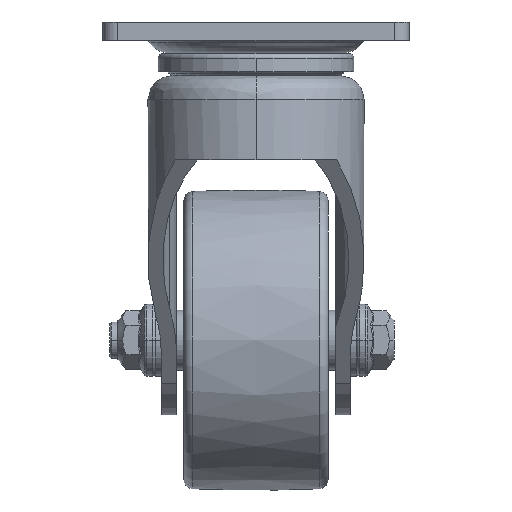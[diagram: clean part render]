
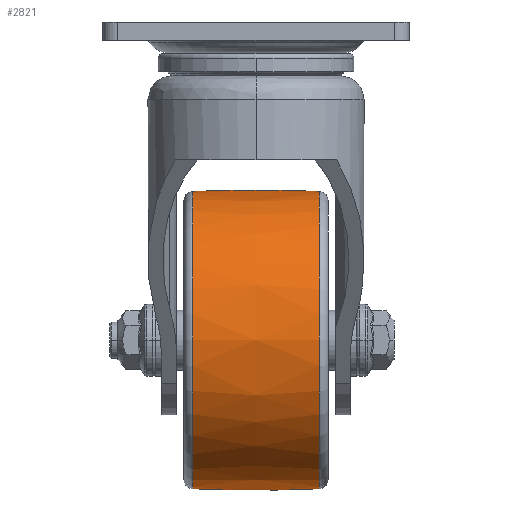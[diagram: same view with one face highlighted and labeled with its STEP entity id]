
A CAD part, left-side view. The second image highlights one B-rep face of the part: STEP entity #2821.
In plain terms, the highlighted free-form (B-spline) face has degree [2, 2] with [3, 9] control points.
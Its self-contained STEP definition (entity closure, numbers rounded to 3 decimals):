
#2748=CARTESIAN_POINT('',(101.278,-34.048,1.127));
#2749=CARTESIAN_POINT('',(101.278,-34.942,-20.));
#2750=CARTESIAN_POINT('',(101.278,-34.048,-41.127));
#2751=CARTESIAN_POINT('',(150.831,-34.048,1.127));
#2752=CARTESIAN_POINT('',(151.725,-34.942,-20.));
#2753=CARTESIAN_POINT('',(150.831,-34.048,-41.127));
#2754=CARTESIAN_POINT('',(150.831,15.505,1.127));
#2755=CARTESIAN_POINT('',(151.725,15.505,-20.));
#2756=CARTESIAN_POINT('',(150.831,15.505,-41.127));
#2757=CARTESIAN_POINT('',(150.831,65.059,1.127));
#2758=CARTESIAN_POINT('',(151.725,65.952,-20.));
#2759=CARTESIAN_POINT('',(150.831,65.059,-41.127));
#2760=CARTESIAN_POINT('',(101.278,65.059,1.127));
#2761=CARTESIAN_POINT('',(101.278,65.952,-20.));
#2762=CARTESIAN_POINT('',(101.278,65.059,-41.127));
#2763=CARTESIAN_POINT('',(51.724,65.059,1.127));
#2764=CARTESIAN_POINT('',(50.831,65.952,-20.));
#2765=CARTESIAN_POINT('',(51.724,65.059,-41.127));
#2766=CARTESIAN_POINT('',(51.724,15.505,1.127));
#2767=CARTESIAN_POINT('',(50.831,15.505,-20.));
#2768=CARTESIAN_POINT('',(51.724,15.505,-41.127));
#2769=CARTESIAN_POINT('',(51.724,-34.048,1.127));
#2770=CARTESIAN_POINT('',(50.831,-34.942,-20.));
#2771=CARTESIAN_POINT('',(51.724,-34.048,-41.127));
#2772=CARTESIAN_POINT('',(101.278,-34.048,1.127));
#2773=CARTESIAN_POINT('',(101.278,-34.942,-20.));
#2774=CARTESIAN_POINT('',(101.278,-34.048,-41.127));
#2782=(BOUNDED_SURFACE()B_SPLINE_SURFACE(2,2,((#2748,#2751,#2754,#2757,#2760,#2763,#2766,#2769,#2772),(#2749,#2752,#2755,#2758,#2761,#2764,#2767,#2770,#2773),(#2750,#2753,#2756,#2759,#2762,#2765,#2768,#2771,#2774)),.UNSPECIFIED.,.F.,.T.,.U.)B_SPLINE_SURFACE_WITH_KNOTS((3,3),(3,2,2,2,3),(-0.042,0.042),(0.0,1.571,3.142,4.712,6.283),.UNSPECIFIED.)GEOMETRIC_REPRESENTATION_ITEM()RATIONAL_B_SPLINE_SURFACE(((1.0,0.707,1.0,0.707,1.0,0.707,1.0,0.707,1.0),(0.999,0.706,0.999,0.706,0.999,0.706,0.999,0.706,0.999),(1.0,0.707,1.0,0.707,1.0,0.707,1.0,0.707,1.0)))REPRESENTATION_ITEM('')SURFACE());
#2783=CARTESIAN_POINT('',(101.278,65.059,-41.127));
#2784=VERTEX_POINT('',#2783);
#2785=CARTESIAN_POINT('',(101.278,65.059,1.127));
#2786=VERTEX_POINT('',#2785);
#2787=CARTESIAN_POINT('',(101.278,-434.495,-20.));
#2788=DIRECTION('',(1.0,0.0,0.0));
#2789=DIRECTION('',(0.0,1.0,0.0));
#2790=AXIS2_PLACEMENT_3D('',#2787,#2788,#2789);
#2791=CIRCLE('',#2790,500.0);
#2792=EDGE_CURVE('',#2784,#2786,#2791,.T.);
#2793=ORIENTED_EDGE('',*,*,#2792,.F.);
#2794=CARTESIAN_POINT('',(101.278,-34.048,-41.127));
#2795=VERTEX_POINT('',#2794);
#2796=CARTESIAN_POINT('',(101.278,15.505,-41.127));
#2797=DIRECTION('',(0.0,0.0,-1.0));
#2798=DIRECTION('',(0.0,1.0,0.0));
#2799=AXIS2_PLACEMENT_3D('',#2796,#2797,#2798);
#2800=CIRCLE('',#2799,49.553);
#2801=EDGE_CURVE('',#2795,#2784,#2800,.T.);
#2802=ORIENTED_EDGE('',*,*,#2801,.F.);
#2803=CARTESIAN_POINT('',(101.278,-34.048,1.127));
#2804=VERTEX_POINT('',#2803);
#2805=CARTESIAN_POINT('',(101.278,465.505,-20.));
#2806=DIRECTION('',(-1.0,0.0,0.0));
#2807=DIRECTION('',(0.0,-1.0,0.0));
#2808=AXIS2_PLACEMENT_3D('',#2805,#2806,#2807);
#2809=CIRCLE('',#2808,500.0);
#2810=EDGE_CURVE('',#2795,#2804,#2809,.T.);
#2811=ORIENTED_EDGE('',*,*,#2810,.T.);
#2812=CARTESIAN_POINT('',(101.278,15.505,1.127));
#2813=DIRECTION('',(0.0,0.0,-1.0));
#2814=DIRECTION('',(0.0,1.0,0.0));
#2815=AXIS2_PLACEMENT_3D('',#2812,#2813,#2814);
#2816=CIRCLE('',#2815,49.553);
#2817=EDGE_CURVE('',#2804,#2786,#2816,.T.);
#2818=ORIENTED_EDGE('',*,*,#2817,.T.);
#2819=EDGE_LOOP('',(#2793,#2802,#2811,#2818));
#2820=FACE_OUTER_BOUND('',#2819,.T.);
#2821=ADVANCED_FACE('',(#2820),#2782,.T.);
